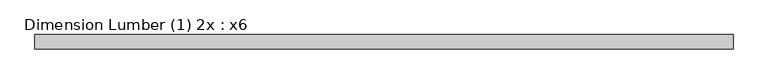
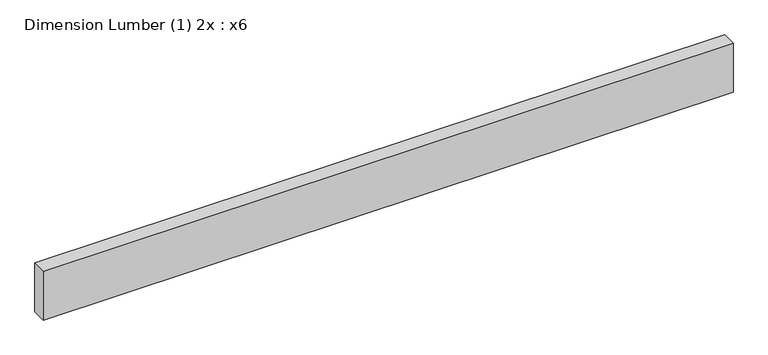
"""IFC4 building model written with IfcOpenShell, lengths in millimetres: beam geometry, Dimension Lumber (1) 2x : x6."""

from ifc_helpers import new_model, si_unit, frame, origin, place, context, project, spatial, polyline, outline, extrude, source, transform, mapped, element, save


def dimension_lumber_1_2x_x6_e8a41e7e(model_context):
    return source(origin(), model_context, "Body", "SweptSolid", [
        extrude(outline(polyline([(930.275, 19.05), (930.275, -19.05), (-930.275, -19.05), (-930.275, 19.05), (930.275, 19.05)])), frame((0.0, 0.0, -69.85), z_axis=(0.0, 0.0, 1.0), x_axis=(1.0, 0.0, 0.0)), (0.0, 0.0, 1.0), 139.7),
    ])


if __name__ == "__main__":
    model = new_model("IFC4")
    model_context = context("Model", 3, world=origin())
    ifc_project = project(units=[si_unit("LENGTHUNIT", "METRE", prefix="MILLI")], contexts=[model_context])
    site = spatial("IfcSite", under=ifc_project)
    building = spatial("IfcBuilding", under=site)
    placement = place(None, origin())
    dimension_lumber_1_2x_x6_shape = dimension_lumber_1_2x_x6_e8a41e7e(model_context)
    element("IfcBeam", 1, ObjectType="Dimension Lumber (1) 2x : x6", at=placement, inside=building, context=model_context, shape_type="MappedRepresentation", body=[
        mapped(dimension_lumber_1_2x_x6_shape, transform((0.0, 0.0, 0.0), x_axis=(1.0, 0.0, 0.0), y_axis=(0.0, 1.0, 0.0), z_axis=(0.0, 0.0, 1.0))),
    ])
    save(model, "model.ifc")
